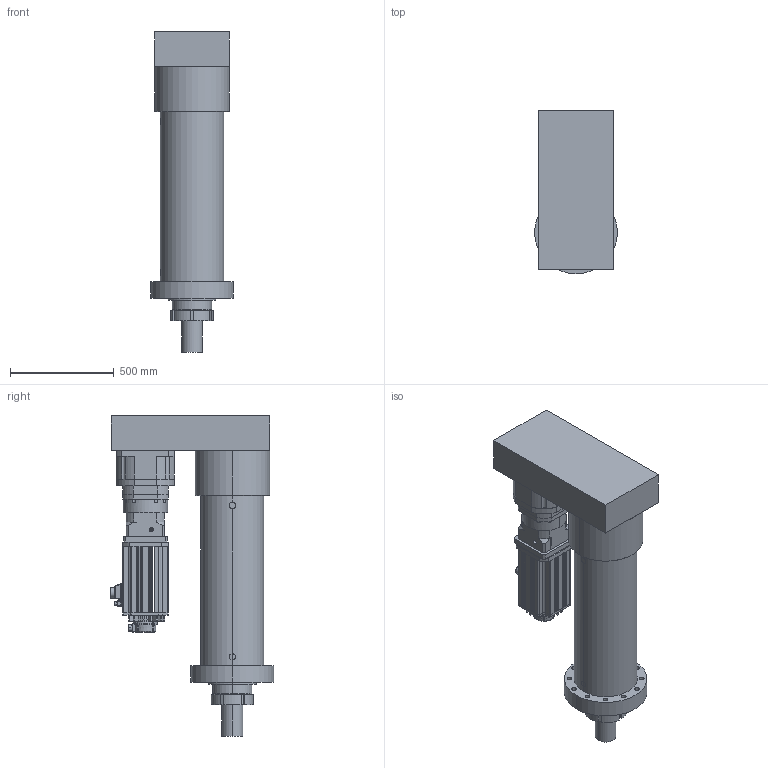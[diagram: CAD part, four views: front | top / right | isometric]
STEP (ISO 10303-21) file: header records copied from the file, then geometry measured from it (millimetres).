
FILE_DESCRIPTION (( 'STEP AP203' ), '1' );
FILE_NAME ('S12殏殿ヶ楊擘假蚾.STEP', '2024-08-16T07:05:42', ( '' ), ( '' ), 'SwSTEP 2.0', 'SolidWorks 2018', '' );
FILE_SCHEMA (( 'CONFIG_CONTROL_DESIGN' ));
Length unit declared in the file: millimetre
Products named in the file (4): PLX280-L3 42-200-235-M12; S12殏殿ヶ楊擘假蚾; S12殏殿ヶ楊擘; ECMA-F1221BS3-220框號系列機種-11KW高慣量系列
Assembly tree (3 placements, depth 2):
  S12殏殿ヶ楊擘假蚾
    PLX280-L3 42-200-235-M12
    S12殏殿ヶ楊擘
    ECMA-F1221BS3-220框號系列機種-11KW高慣量系列
Bounding box: 400 x 789.2 x 1545 mm (x, y, z)
Volume: 162728399.4 mm3; surface area: 4079263.8 mm2
Topology: 7 solids, 13 shells, 1195 faces, 3116 edges, 2007 vertices
Faces by surface type: cylinder 532, plane 491, cone 133, bspline 18, torus 13, sphere 8
Entity records: 39939 total; most frequent: CARTESIAN_POINT 9926, DIRECTION 6322, ORIENTED_EDGE 5864, EDGE_CURVE 3074, AXIS2_PLACEMENT_3D 2388, VERTEX_POINT 2007, LINE 1546, VECTOR 1546
